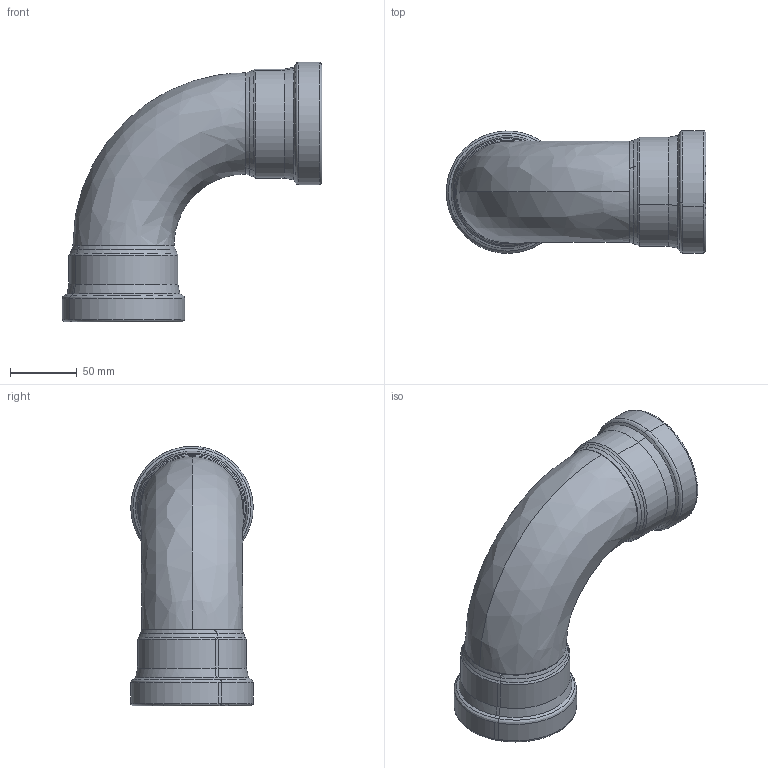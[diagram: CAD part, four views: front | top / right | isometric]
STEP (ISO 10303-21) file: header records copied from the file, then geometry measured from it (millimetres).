
FILE_DESCRIPTION(('STEP AP214'),'1');
FILE_NAME('pim0001940.stp','2015-03-18T09:35:25',('CAD-PIM'),('TransMagic, Inc.'),'TMR11sp0','TransMagic R11',' ');
FILE_SCHEMA(('AUTOMOTIVE_DESIGN'));
Length unit declared in the file: millimetre
Products named in the file (1): pim0001940
Bounding box: 194.99 x 92 x 194.98 mm (x, y, z)
Volume: 857030.3 mm3; surface area: 102750.4 mm2
Topology: 1 solids, 1 shells, 70 faces, 165 edges, 95 vertices
Faces by surface type: bspline 70
Entity records: 4036 total; most frequent: CARTESIAN_POINT 2601, ORIENTED_EDGE 322, EDGE_CURVE 161, VERTEX_POINT 95, EDGE_LOOP 72, STYLED_ITEM 71, PRESENTATION_STYLE_ASSIGNMENT 71, SURFACE_STYLE_USAGE 71
